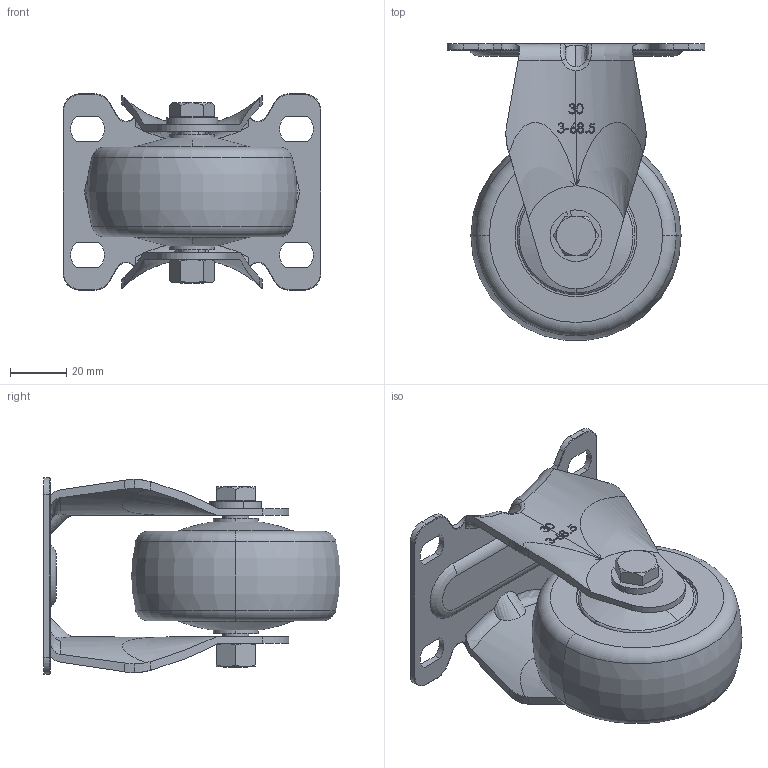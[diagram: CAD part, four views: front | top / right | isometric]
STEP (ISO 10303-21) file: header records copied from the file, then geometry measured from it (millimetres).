
FILE_DESCRIPTION (( 'STEP AP203' ), '1' );
FILE_NAME ('4113003001033-7.STEP', '2025-04-21T02:09:17', ( '' ), ( '' ), 'SwSTEP 2.0', 'SolidWorks 2019', '' );
FILE_SCHEMA (( 'CONFIG_CONTROL_DESIGN' ));
Length unit declared in the file: millimetre
Products named in the file (6): 242020959012 30系列白鐵活動(波西煞用車心) 20231125A3; 4113003001033-7; 246030900001 白鐵彈簧華司(SPWS)-41; 213001030002-30系列固定架-電鍍_長孔; 245020900001 白鐵螺母(SUS304)-41; 輪
Assembly tree (5 placements, depth 2):
  4113003001033-7
    213001030002-30系列固定架-電鍍_長孔
    輪
    242020959012 30系列白鐵活動(波西煞用車心) 20231125A3
    245020900001 白鐵螺母(SUS304)-41
    246030900001 白鐵彈簧華司(SPWS)-41
Bounding box: 92 x 105.79 x 70 mm (x, y, z)
Volume: 166246.4 mm3; surface area: 49723.8 mm2
Topology: 5 solids, 7 shells, 313 faces, 860 edges, 575 vertices
Faces by surface type: cylinder 118, plane 92, torus 36, bspline 32, cone 25, sphere 10
Entity records: 16792 total; most frequent: CARTESIAN_POINT 8474, ORIENTED_EDGE 1704, DIRECTION 1514, EDGE_CURVE 852, AXIS2_PLACEMENT_3D 620, VERTEX_POINT 575, EDGE_LOOP 355, CIRCLE 331
